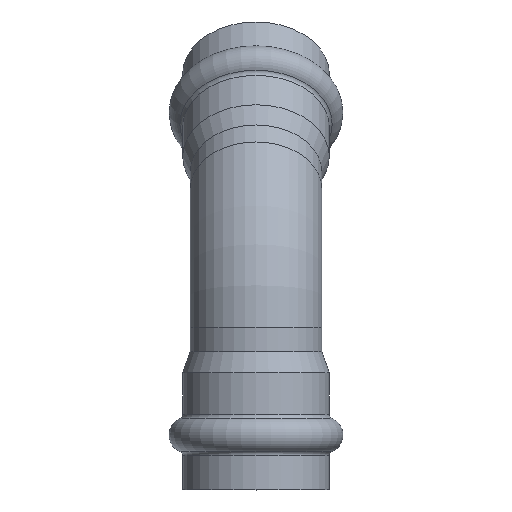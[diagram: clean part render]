
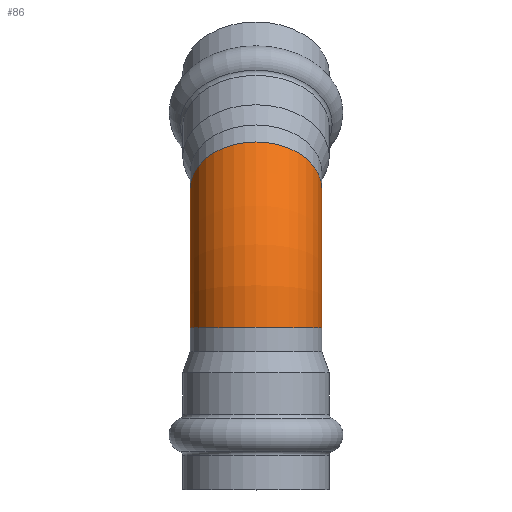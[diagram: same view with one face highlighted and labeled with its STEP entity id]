
A CAD part, top view. The second image highlights one B-rep face of the part: STEP entity #86.
In plain terms, the highlighted toroidal (fillet/blend) face has major radius 42 mm and minor radius 14 mm.
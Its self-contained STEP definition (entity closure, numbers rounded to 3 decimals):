
#86=ADVANCED_FACE('',(#384,#386),#388,.T.);
#384=FACE_BOUND('',#385,.T.);
#385=EDGE_LOOP('',(#474,#475));
#386=FACE_OUTER_BOUND('',#387,.T.);
#387=EDGE_LOOP('',(#476));
#388=TOROIDAL_SURFACE('',#389,42.,14.);
#389=AXIS2_PLACEMENT_3D('',#390,#391,#392);
#390=CARTESIAN_POINT('',(0.,34.603,-42.));
#391=DIRECTION('',(-1.,0.,0.));
#392=DIRECTION('',(0.,0.,1.));
#474=ORIENTED_EDGE('',*,*,#518,.T.);
#475=ORIENTED_EDGE('',*,*,#517,.T.);
#476=ORIENTED_EDGE('',*,*,#516,.F.);
#516=EDGE_CURVE('',#597,#597,#598,.T.);
#517=EDGE_CURVE('',#599,#600,#601,.T.);
#518=EDGE_CURVE('',#600,#599,#602,.T.);
#597=VERTEX_POINT('',#798);
#598=CIRCLE('',#799,14.);
#599=VERTEX_POINT('',#803);
#600=VERTEX_POINT('',#804);
#601=CIRCLE('',#805,14.);
#602=CIRCLE('',#809,14.);
#798=CARTESIAN_POINT('',(-14.,64.302,-12.302));
#799=AXIS2_PLACEMENT_3D('',#800,#801,#802);
#800=CARTESIAN_POINT('',(0.,64.302,-12.302));
#801=DIRECTION('',(0.,0.707,-0.707));
#802=DIRECTION('',(-1.,0.,0.));
#803=CARTESIAN_POINT('',(-14.,34.603,0.));
#804=CARTESIAN_POINT('',(0.,34.603,14.));
#805=AXIS2_PLACEMENT_3D('',#806,#807,#808);
#806=CARTESIAN_POINT('',(0.,34.603,0.));
#807=DIRECTION('',(0.,1.,0.));
#808=DIRECTION('',(-1.,0.,0.));
#809=AXIS2_PLACEMENT_3D('',#810,#811,#812);
#810=CARTESIAN_POINT('',(0.,34.603,0.));
#811=DIRECTION('',(0.,1.,0.));
#812=DIRECTION('',(0.,0.,1.));
